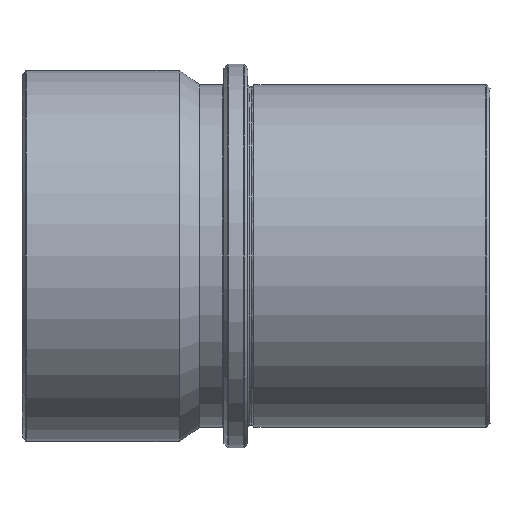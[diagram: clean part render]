
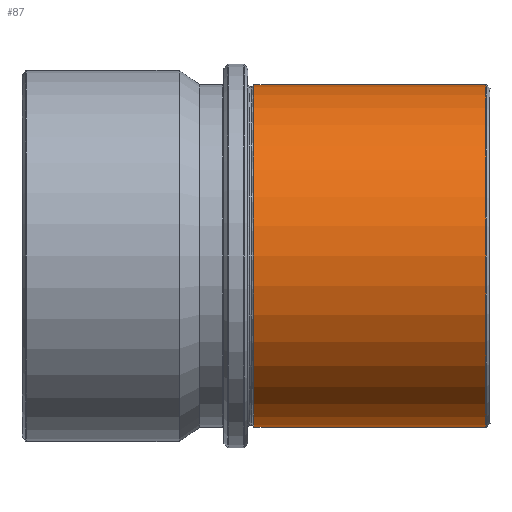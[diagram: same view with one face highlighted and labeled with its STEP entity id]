
A CAD part, left-side view. The second image highlights one B-rep face of the part: STEP entity #87.
In plain terms, the highlighted face is a revolution surface.
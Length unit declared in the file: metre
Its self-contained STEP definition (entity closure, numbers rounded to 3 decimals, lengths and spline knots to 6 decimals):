
#87 = ADVANCED_FACE( '', ( #155 ), #156, .F. );
#155 = FACE_OUTER_BOUND( '', #407, .T. );
#156 = SURFACE_OF_REVOLUTION( '', #408, #409 );
#407 = EDGE_LOOP( '', ( #1117, #1118, #1119, #1120 ) );
#408 = B_SPLINE_CURVE_WITH_KNOTS( '', 1, ( #1121, #1122 ), .UNSPECIFIED., .F., .F., ( 2, 2 ), ( -10000., 10000. ), .UNSPECIFIED. );
#409 = AXIS1_PLACEMENT( '', #1123, #1124 );
#1117 = ORIENTED_EDGE( '', *, *, #1398, .F. );
#1118 = ORIENTED_EDGE( '', *, *, #1397, .F. );
#1119 = ORIENTED_EDGE( '', *, *, #1399, .F. );
#1120 = ORIENTED_EDGE( '', *, *, #1395, .F. );
#1121 = CARTESIAN_POINT( '', ( 0., 10000.0585, -0.0425 ) );
#1122 = CARTESIAN_POINT( '', ( 0., -9999.9415, -0.0425 ) );
#1123 = CARTESIAN_POINT( '', ( 0., 0.0585, 0. ) );
#1124 = DIRECTION( '', ( 0., 1., 0. ) );
#1395 = EDGE_CURVE( '', #1509, #1521, #1522, .T. );
#1397 = EDGE_CURVE( '', #1523, #1511, #1525, .F. );
#1398 = EDGE_CURVE( '', #1511, #1509, #1526, .F. );
#1399 = EDGE_CURVE( '', #1521, #1523, #1527, .T. );
#1509 = VERTEX_POINT( '', #1723 );
#1511 = VERTEX_POINT( '', #1735 );
#1521 = VERTEX_POINT( '', #1757 );
#1522 = LINE( '', #1758, #1759 );
#1523 = VERTEX_POINT( '', #1760 );
#1525 = LINE( '', #1762, #1763 );
#1526 = CIRCLE( '', #1764, 0.0425 );
#1527 = CIRCLE( '', #1765, 0.0425 );
#1723 = CARTESIAN_POINT( '', ( 0., 0.0585, 0.0425 ) );
#1735 = CARTESIAN_POINT( '', ( 0., 0.0585, -0.0425 ) );
#1757 = CARTESIAN_POINT( '', ( 0., 0.001083, 0.0425 ) );
#1758 = CARTESIAN_POINT( '', ( 0., 0.0585, 0.0425 ) );
#1759 = VECTOR( '', #2191, 1. );
#1760 = CARTESIAN_POINT( '', ( 0., 0.001083, -0.0425 ) );
#1762 = CARTESIAN_POINT( '', ( 0., 0.0585, -0.0425 ) );
#1763 = VECTOR( '', #2195, 1. );
#1764 = AXIS2_PLACEMENT_3D( '', #2196, #2197, #2198 );
#1765 = AXIS2_PLACEMENT_3D( '', #2199, #2200, #2201 );
#2191 = DIRECTION( '', ( 0., -1., 0. ) );
#2195 = DIRECTION( '', ( 0., -1., 0. ) );
#2196 = CARTESIAN_POINT( '', ( 0., 0.0585, 0. ) );
#2197 = DIRECTION( '', ( 0., -1., 0. ) );
#2198 = DIRECTION( '', ( 0., 0., -1. ) );
#2199 = CARTESIAN_POINT( '', ( 0., 0.001083, 0. ) );
#2200 = DIRECTION( '', ( 0., -1., 0. ) );
#2201 = DIRECTION( '', ( 0., 0., -1. ) );
